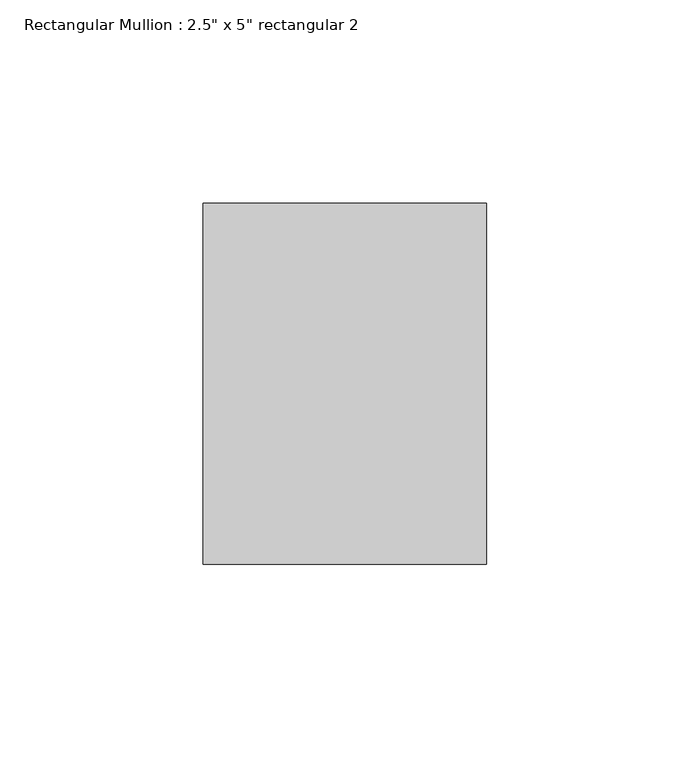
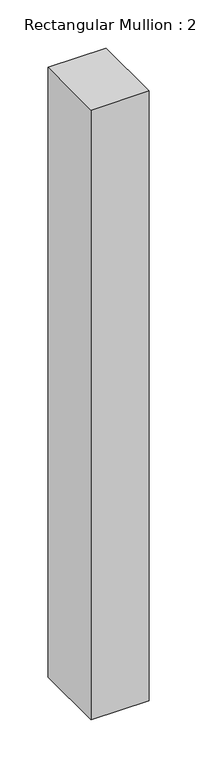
"""IFC4 building model written with IfcOpenShell, lengths in millimetres: member geometry."""

from ifc_helpers import new_model, si_unit, frame, origin, place, context, project, spatial, polyline, outline, extrude, source, transform, mapped, element, save


def member_cb05f148(model_context):
    return source(origin(), model_context, "Body", "SweptSolid", [
        extrude(outline(polyline([(38.1, 44.45), (38.1, -44.45), (-31.75, -44.45), (-31.75, 44.45), (38.1, 44.45)])), frame((0.0, 0.0, -772.6086377), z_axis=(0.0, 0.0, 1.0), x_axis=(1.0, 0.0, 0.0)), (0.0, 0.0, 1.0), 772.6086377),
    ])


if __name__ == "__main__":
    model = new_model("IFC4")
    model_context = context("Model", 3, world=origin())
    ifc_project = project(units=[si_unit("LENGTHUNIT", "METRE", prefix="MILLI")], contexts=[model_context])
    site = spatial("IfcSite", under=ifc_project)
    building = spatial("IfcBuilding", under=site)
    placement = place(None, origin())
    member_shape = member_cb05f148(model_context)
    element("IfcMember", 1, ObjectType="Rectangular Mullion : 2.5\" x 5\" rectangular 2", at=placement, inside=building, context=model_context, shape_type="MappedRepresentation", body=[
        mapped(member_shape, transform((0.0, 0.0, 0.0), x_axis=(1.0, 0.0, 0.0), y_axis=(0.0, 1.0, 0.0), z_axis=(0.0, 0.0, 1.0))),
    ])
    save(model, "model.ifc")
